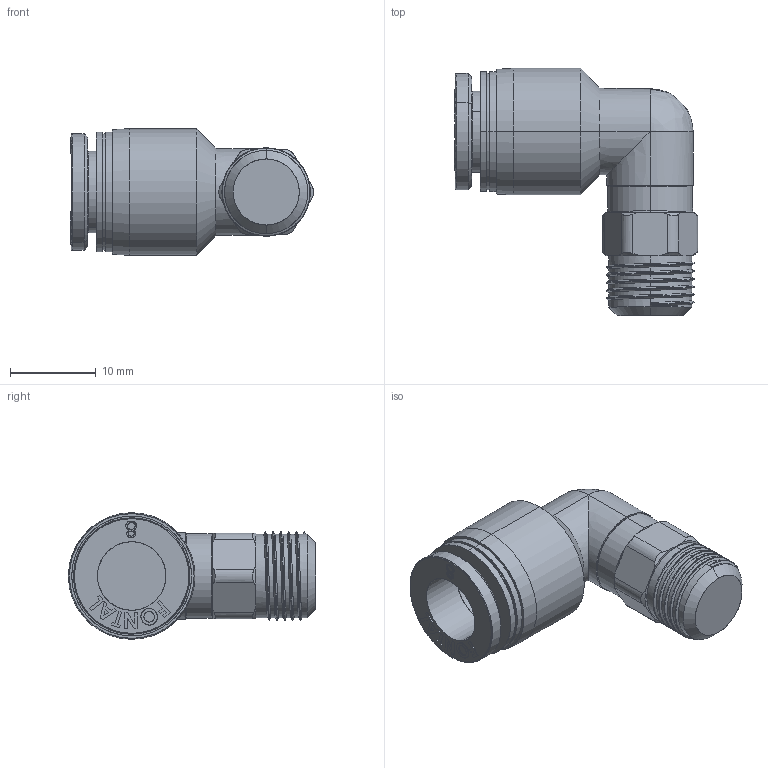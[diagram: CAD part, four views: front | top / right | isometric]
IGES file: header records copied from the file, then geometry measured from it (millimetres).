
Start section: SolidWorks IGES file using analytic representation for surfaces
Global section: file name: D:\Custom\3D繪製\ADDITIONAL\FPL\FPL8-01.IGS,1; native system: 5HSolidWorks 2014; preprocessor: SolidWorks 2014; author: Chieh_Lu; date: 160115.050405; units: millimetre
Bounding box: 28.42 x 28.9 x 14.8 mm (x, y, z)
Surface area: 2903.3 mm2 (no closed solid volume)
Topology: 0 solids, 0 shells, 184 faces, 2188 edges, 2183 vertices
Faces by surface type: bspline 120, revolution 64
